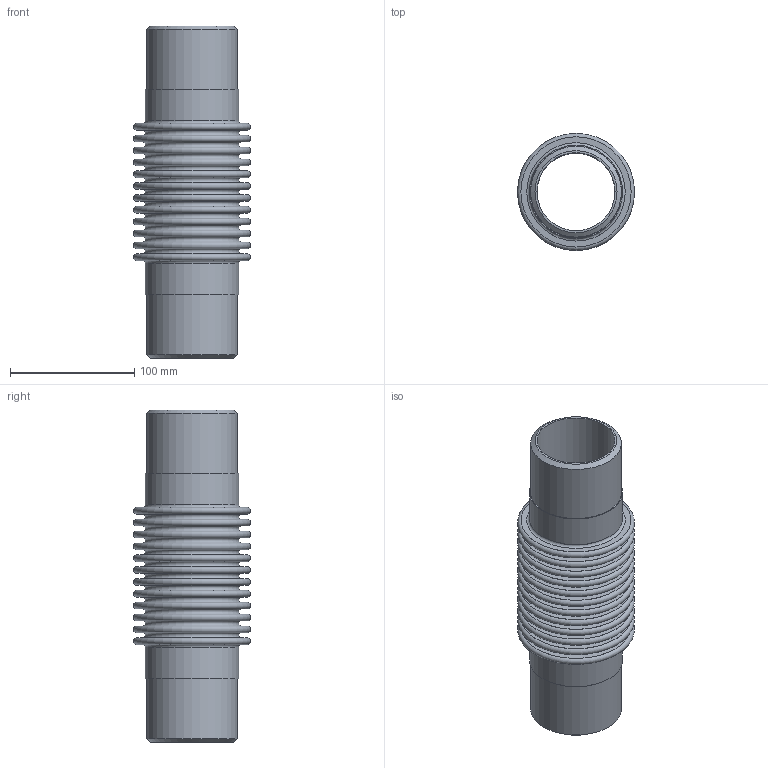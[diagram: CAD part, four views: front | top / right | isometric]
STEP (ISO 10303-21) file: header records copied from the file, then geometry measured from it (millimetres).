
FILE_DESCRIPTION(/* description */ ('EXPANSION JOINT,SINGLE, WELD ENDS,4 INCH NOMINAL'),/* implementation_level */ '2;1');
FILE_NAME(/* name */ 'ASSEMBLY US- 2.5 -12-150L.stp',/* time_stamp */ '2026-07-30T08:43:16-05:00',/* author */ ('jorgef'),/* organization */ (''),/* preprocessor_version */ 'ST-DEVELOPER v20.1',/* originating_system */ 'Autodesk Inventor 2026',/* authorisation */ '');
FILE_SCHEMA (('AUTOMOTIVE_DESIGN { 1 0 10303 214 3 1 1 }'));
Length unit declared in the file: inch
Products named in the file (3): ASSEMBLY  US- 2.5 -12-150L; STOCK BELLOW - US- 2.5 -12-150L; PIPE- US- 2.5 -12-150L
Assembly tree (3 placements, depth 2):
  ASSEMBLY  US- 2.5 -12-150L
    STOCK BELLOW - US- 2.5 -12-150L
    PIPE- US- 2.5 -12-150L  x2
Bounding box: 93.98 x 93.98 x 266.7 mm (x, y, z)
Volume: 219869.7 mm3; surface area: 248169.1 mm2
Topology: 5 solids, 5 shells, 118 faces, 180 edges, 121 vertices
Faces by surface type: plane 58, torus 50, cylinder 8, cone 2
Full cylindrical faces by diameter (mm): 62.713 x2, 73.025 x2, 73.66 x2, 74.879 x2
Entity records: 2769 total; most frequent: DIRECTION 573, CARTESIAN_POINT 405, ORIENTED_EDGE 342, AXIS2_PLACEMENT_3D 283, EDGE_CURVE 171, EDGE_LOOP 169, CIRCLE 164, VERTEX_POINT 114
